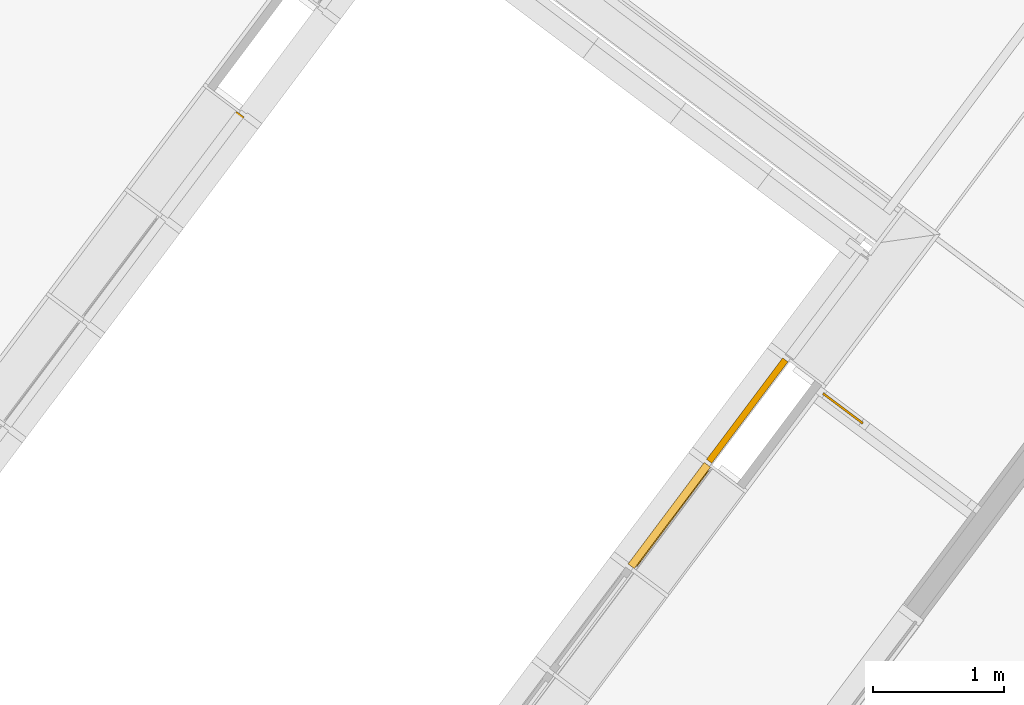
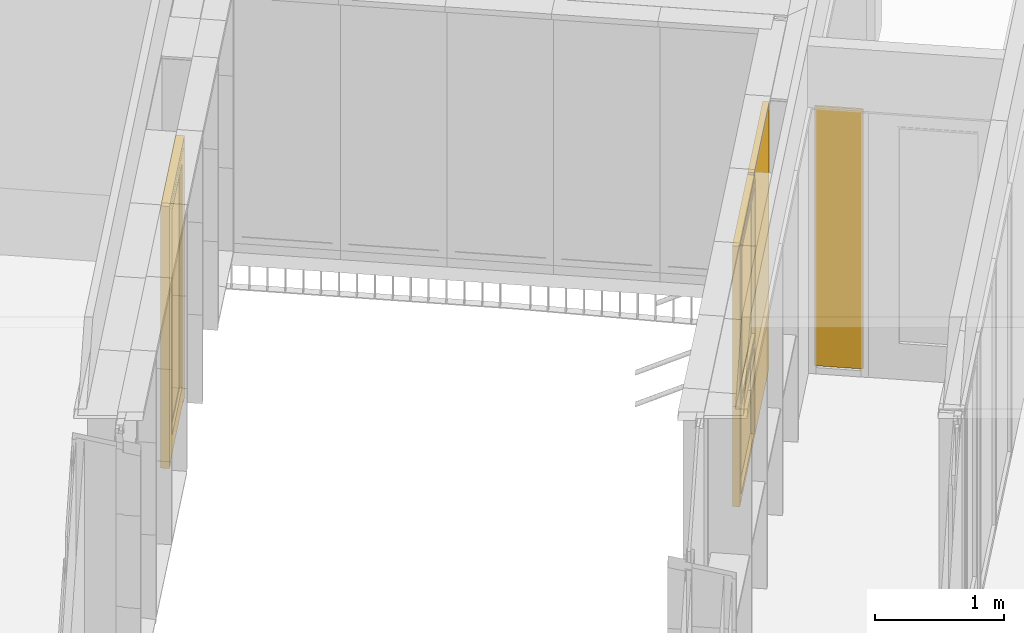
# One storey, part 209 of 243: 4 windows, 1 door, 3 elements without a shape of their own.
"""IFC2X3 building model written with IfcOpenShell, lengths in metres."""

from ifc_helpers import new_model, entity, si_unit, converted_unit, derived_unit, direction, frame, frame_2d, origin, origin_2d_with_axis, place, context, subcontext, project, spatial, polyline, rectangle, outline, extrude, faceted_brep, source, transform, mapped, material, material_list, type_object, type_shapes, element, aggregate, save


model = new_model("IFC2X3")

# Units and contexts
model_context = context("Model", 3, precision=1e-05, world=origin(), true_north=direction((6.123031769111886e-17, 1.0)))
body_context = subcontext(model_context, "Body", "Model", "MODEL_VIEW")
ifc_project = project(units=[si_unit("LENGTHUNIT", "METRE"), si_unit("AREAUNIT", "SQUARE_METRE"), si_unit("VOLUMEUNIT", "CUBIC_METRE"), converted_unit("PLANEANGLEUNIT", "DEGREE", entity("IfcRatioMeasure", 0.017453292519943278), si_unit("PLANEANGLEUNIT", "RADIAN"), dimensions=[0, 0, 0, 0, 0, 0, 0]), si_unit("MASSUNIT", "GRAM", prefix="KILO"), derived_unit("MASSDENSITYUNIT", [(si_unit("MASSUNIT", "GRAM", prefix="KILO"), 1), (si_unit("LENGTHUNIT", "METRE"), -3)]), derived_unit("IONCONCENTRATIONUNIT", [(si_unit("MASSUNIT", "GRAM", prefix="KILO"), 1), (si_unit("LENGTHUNIT", "METRE"), -3)]), derived_unit("MOMENTOFINERTIAUNIT", [(si_unit("LENGTHUNIT", "METRE"), 4)]), si_unit("TIMEUNIT", "SECOND"), si_unit("FREQUENCYUNIT", "HERTZ"), si_unit("THERMODYNAMICTEMPERATUREUNIT", "DEGREE_CELSIUS"), derived_unit("THERMALTRANSMITTANCEUNIT", [(si_unit("MASSUNIT", "GRAM", prefix="KILO"), 1), (si_unit("THERMODYNAMICTEMPERATUREUNIT", "KELVIN"), -1), (si_unit("TIMEUNIT", "SECOND"), -3)]), derived_unit("THERMALCONDUCTANCEUNIT", [(si_unit("MASSUNIT", "GRAM", prefix="KILO"), 1), (si_unit("THERMODYNAMICTEMPERATUREUNIT", "KELVIN"), -1), (si_unit("TIMEUNIT", "SECOND"), -3), (si_unit("LENGTHUNIT", "METRE"), 1)]), derived_unit("VOLUMETRICFLOWRATEUNIT", [(si_unit("LENGTHUNIT", "METRE"), 3), (si_unit("TIMEUNIT", "SECOND"), -1)]), derived_unit("MASSFLOWRATEUNIT", [(si_unit("MASSUNIT", "GRAM", prefix="KILO"), 1), (si_unit("TIMEUNIT", "SECOND"), -1)]), derived_unit("ROTATIONALFREQUENCYUNIT", [(si_unit("TIMEUNIT", "SECOND"), -1)]), si_unit("ELECTRICCURRENTUNIT", "AMPERE"), si_unit("ELECTRICVOLTAGEUNIT", "VOLT"), si_unit("POWERUNIT", "WATT"), si_unit("FORCEUNIT", "NEWTON", prefix="KILO"), si_unit("ILLUMINANCEUNIT", "LUX"), si_unit("LUMINOUSFLUXUNIT", "LUMEN"), si_unit("LUMINOUSINTENSITYUNIT", "CANDELA"), derived_unit("USERDEFINED", [(si_unit("MASSUNIT", "GRAM", prefix="KILO"), -1), (si_unit("LENGTHUNIT", "METRE"), -2), (si_unit("TIMEUNIT", "SECOND"), 3), (si_unit("LUMINOUSFLUXUNIT", "LUMEN"), 1)]), derived_unit("USERDEFINED", [(si_unit("MASSUNIT", "GRAM", prefix="KILO"), 1), (si_unit("TIMEUNIT", "SECOND"), -3), (si_unit("LENGTHUNIT", "METRE"), 3), (si_unit("ELECTRICCURRENTUNIT", "AMPERE"), -2)]), derived_unit("SOUNDPOWERUNIT", [(si_unit("MASSUNIT", "GRAM", prefix="KILO"), 1), (si_unit("TIMEUNIT", "SECOND"), -3), (si_unit("LENGTHUNIT", "METRE"), 2)]), derived_unit("SOUNDPRESSUREUNIT", [(si_unit("MASSUNIT", "GRAM", prefix="KILO"), 1), (si_unit("LENGTHUNIT", "METRE"), -1), (si_unit("TIMEUNIT", "SECOND"), -2)]), derived_unit("LINEARVELOCITYUNIT", [(si_unit("LENGTHUNIT", "METRE"), 1), (si_unit("TIMEUNIT", "SECOND"), -1)]), si_unit("PRESSUREUNIT", "PASCAL"), derived_unit("USERDEFINED", [(si_unit("MASSUNIT", "GRAM", prefix="KILO"), 1), (si_unit("LENGTHUNIT", "METRE"), -2), (si_unit("TIMEUNIT", "SECOND"), -2)]), derived_unit("LINEARFORCEUNIT", [(si_unit("MASSUNIT", "GRAM", prefix="KILO"), 1), (si_unit("TIMEUNIT", "SECOND"), -2)]), derived_unit("PLANARFORCEUNIT", [(si_unit("MASSUNIT", "GRAM", prefix="KILO"), 1), (si_unit("LENGTHUNIT", "METRE"), -1), (si_unit("TIMEUNIT", "SECOND"), -2)]), derived_unit("SPECIFICHEATCAPACITYUNIT", [(si_unit("THERMODYNAMICTEMPERATUREUNIT", "KELVIN"), -1), (si_unit("LENGTHUNIT", "METRE"), 2), (si_unit("TIMEUNIT", "SECOND"), -2)]), derived_unit("HEATINGVALUEUNIT", [(si_unit("LENGTHUNIT", "METRE"), 2), (si_unit("TIMEUNIT", "SECOND"), -2)]), derived_unit("VAPORPERMEABILITYUNIT", [(si_unit("LENGTHUNIT", "METRE"), -1), (si_unit("TIMEUNIT", "SECOND"), 1)]), derived_unit("DYNAMICVISCOSITYUNIT", [(si_unit("MASSUNIT", "GRAM", prefix="KILO"), 1), (si_unit("TIMEUNIT", "SECOND"), -1), (si_unit("LENGTHUNIT", "METRE"), -1)]), derived_unit("THERMALEXPANSIONCOEFFICIENTUNIT", [(si_unit("THERMODYNAMICTEMPERATUREUNIT", "KELVIN"), -1)]), derived_unit("MODULUSOFELASTICITYUNIT", [(si_unit("MASSUNIT", "GRAM", prefix="KILO"), 1), (si_unit("LENGTHUNIT", "METRE"), -1), (si_unit("TIMEUNIT", "SECOND"), -2)]), derived_unit("ISOTHERMALMOISTURECAPACITYUNIT", [(si_unit("LENGTHUNIT", "METRE"), 3), (si_unit("MASSUNIT", "GRAM", prefix="KILO"), -1)]), derived_unit("MOISTUREDIFFUSIVITYUNIT", [(si_unit("TIMEUNIT", "SECOND"), -1), (si_unit("LENGTHUNIT", "METRE"), 2)])], contexts=[model_context])

# Site, building, storey
site_placement = place(None, frame((0.0, 0.0, 235.0), z_axis=(0.0, 0.0, 1.0), x_axis=(-0.7996477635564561, 0.6004693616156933, 0.0)))
site = spatial("IfcSite", under=ifc_project, at=site_placement, Name="Default", CompositionType="ELEMENT")
building_placement = place(site_placement, origin())
building = spatial("IfcBuilding", under=site, at=building_placement, CompositionType="ELEMENT")
storey_placement = place(building_placement, origin())
storey = spatial("IfcBuildingStorey", under=building, at=storey_placement, Name="P0- Escola", CompositionType="ELEMENT", Elevation=0.0)

# Curtain wall, door
curtain_wall_type_1 = type_object("IfcCurtainWallType", Name="Muro cortina:MC- EXT- MC2", PredefinedType="NOTDEFINED")
curtain_wall_1_placement = place(storey_placement, origin())
curtain_wall_1 = element("IfcCurtainWall", 1, at=curtain_wall_1_placement, inside=storey, type_object=curtain_wall_type_1, Name="Muro cortina:MC- EXT- MC2", ObjectType="Muro cortina:MC- EXT- MC2")
ifc_material_1 = material(Name="_Alumini- T1- Perfil")
ifc_material_2 = material(Name="_Vidre")
ifc_material_list_1 = material_list([ifc_material_1, ifc_material_2])
door_style = type_object("IfcDoorStyle", Name="MC- Alu- Conjunt porta- 70x60 cm- +15cm- obertura int:MC- Alu- Conjunt porta- 70x60 cm- +15cm- obertura int", ConstructionType="NOTDEFINED", OperationType="NOTDEFINED", ParameterTakesPrecedence=False, Sizeable=False, material=ifc_material_list_1)
shared_shape_1 = source(origin(), body_context, "Body", "Brep", [
    faceted_brep([(-0.4116999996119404, 0.0, 0.024000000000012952), (0.4116999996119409, 0.0, 0.024000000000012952), (0.4116999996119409, -0.06569970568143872, 0.024000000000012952), (-0.41169999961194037, -0.0656997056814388, 0.024000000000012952), (-0.4116999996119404, -0.0656997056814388, 2.410449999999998), (-0.4116999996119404, 0.0, 2.410449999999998), (0.41169999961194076, -0.06569970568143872, 2.410449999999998), (0.4356999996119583, -0.06569970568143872, 0.0), (-0.43569999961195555, -0.06569970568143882, 0.0), (-0.4356999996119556, -0.06569970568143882, 2.4344500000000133), (0.43569999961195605, -0.06569970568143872, 2.4344500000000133), (0.4116999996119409, 0.0, 2.410449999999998), (-0.3350999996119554, 0.0, 2.333850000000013), (-0.33509999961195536, 0.0, 0.20400000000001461), (0.33509999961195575, 0.0, 0.20400000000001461), (0.33509999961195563, 0.0, 2.333850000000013), (0.43569999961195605, -0.0699997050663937, 2.4344500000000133), (0.43569999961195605, -0.0699997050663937, 0.0), (-0.43569999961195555, -0.06999970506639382, 0.0), (-0.4356999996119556, -0.06999970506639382, 2.4344500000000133), (0.33509999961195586, -0.06999970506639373, 2.3338500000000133), (0.3350999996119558, -0.06999970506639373, 0.20400000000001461), (-0.33509999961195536, -0.06999970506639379, 0.20400000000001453), (-0.3350999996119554, -0.06999970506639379, 2.333850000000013), (0.33509999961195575, -0.06449970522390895, 2.333850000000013), (0.33509999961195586, -0.06449970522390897, 0.20400000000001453), (-0.33509999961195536, -0.06449970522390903, 0.20400000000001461), (-0.3350999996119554, -0.06449970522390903, 2.333850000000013), (0.3601000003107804, -0.06449970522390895, 2.3588500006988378), (0.3601000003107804, -0.06449970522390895, 0.17899999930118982), (-0.36010000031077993, -0.06449970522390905, 0.17899999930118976), (-0.36010000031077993, -0.06449970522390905, 2.3588500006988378), (0.3601000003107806, -0.01899970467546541, 2.3588500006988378), (0.3601000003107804, -0.01899970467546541, 0.17899999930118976), (-0.36010000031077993, -0.018999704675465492, 0.17899999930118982), (-0.36010000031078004, -0.01899970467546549, 2.3588500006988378), (0.33509999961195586, -0.018999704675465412, 2.3338500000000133), (0.33509999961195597, -0.018999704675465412, 0.20400000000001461), (-0.33509999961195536, -0.018999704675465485, 0.20400000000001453), (-0.3350999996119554, -0.018999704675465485, 2.333850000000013)], [[[0, 1, 2, 3]], [[4, 5, 0, 3]], [[2, 6, 4, 3], [7, 8, 9, 10]], [[2, 1, 11, 6]], [[11, 1, 0, 5], [12, 13, 14, 15]], [[16, 17, 7, 10]], [[8, 7, 17, 18]], [[18, 17, 16, 19], [20, 21, 22, 23]], [[24, 25, 21, 20]], [[21, 25, 26, 22]], [[27, 26, 25, 24], [28, 29, 30, 31]], [[32, 33, 29, 28]], [[33, 34, 30, 29]], [[35, 34, 33, 32], [36, 37, 38, 39]], [[15, 14, 37, 36]], [[37, 14, 13, 38]], [[9, 8, 18, 19]], [[23, 22, 26, 27]], [[31, 30, 34, 35]], [[39, 38, 13, 12]], [[19, 16, 10, 9]], [[27, 24, 20, 23]], [[35, 32, 28, 31]], [[12, 15, 36, 39]], [[4, 6, 11, 5]]], outer=[[True], [True], [False, True], [True], [True, False], [True], [True], [True, False], [True], [True], [False, True], [True], [True], [True, False], [True], [True], [True], [True], [True], [True], [True], [True], [True], [True], [True]]),
    faceted_brep([(0.3601000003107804, -0.06089980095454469, 0.17899999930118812), (-0.36010000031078, -0.06089980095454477, 0.17899999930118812), (-0.36010000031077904, -0.028899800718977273, 0.17899999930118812), (0.3601000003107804, -0.02889980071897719, 0.17899999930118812), (0.3601000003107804, -0.060899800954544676, 2.3588500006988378), (0.3601000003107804, -0.02889980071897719, 2.3588500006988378), (-0.36010000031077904, -0.028899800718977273, 2.3588500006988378), (-0.36010000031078, -0.06089980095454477, 2.3588500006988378)], [[[0, 1, 2, 3]], [[4, 0, 3, 5]], [[5, 3, 2, 6]], [[6, 2, 1, 7]], [[7, 1, 0, 4]], [[4, 5, 6, 7]]]),
    faceted_brep([(-0.48499999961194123, -0.06999999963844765, 0.0), (-0.48499999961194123, 0.0, 0.0), (-0.41769999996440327, 0.0, 0.0), (-0.41769999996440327, -0.008800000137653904, 0.0), (-0.43319996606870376, -0.008800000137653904, 0.0), (-0.43319996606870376, -0.059699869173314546, 0.0), (-0.4436999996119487, -0.059699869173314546, 0.0), (-0.4436999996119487, -0.06999999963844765, 0.0), (-0.44369999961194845, -0.06999999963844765, 2.442450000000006), (0.44369999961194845, -0.06999999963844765, 2.442450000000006), (0.44369999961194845, -0.06999999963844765, 0.0), (0.48499999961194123, -0.06999999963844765, 0.0), (0.48499999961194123, -0.06999999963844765, 2.4837499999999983), (-0.4849999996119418, -0.06999999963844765, 2.4837499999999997), (-0.4436999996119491, -0.059699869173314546, 2.442450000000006), (-0.43319996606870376, -0.059699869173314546, 2.4319499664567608), (0.43319996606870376, -0.059699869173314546, 2.4319499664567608), (0.43319996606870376, -0.059699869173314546, 0.0), (0.4436999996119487, -0.059699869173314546, 0.0), (0.44369999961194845, -0.059699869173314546, 2.442450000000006), (-0.433199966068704, -0.008800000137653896, 2.4319499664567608), (-0.41769999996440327, -0.008800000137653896, 2.4164500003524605), (0.41769999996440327, -0.008800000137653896, 2.4164500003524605), (0.41769999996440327, -0.008800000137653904, 0.0), (0.43319996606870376, -0.008800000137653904, 0.0), (0.43319996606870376, -0.008800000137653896, 2.4319499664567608), (-0.4176999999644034, 0.0, 2.4164500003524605), (-0.48499999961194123, 0.0, 2.4837499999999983), (0.48499999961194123, 0.0, 2.4837499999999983), (0.48499999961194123, 0.0, 0.0), (0.41769999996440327, 0.0, 0.0), (0.41769999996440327, 0.0, 2.4164500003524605)], [[[0, 1, 2, 3, 4, 5, 6, 7]], [[7, 8, 9, 10, 11, 12, 13, 0]], [[6, 14, 8, 7]], [[5, 15, 16, 17, 18, 19, 14, 6]], [[4, 20, 15, 5]], [[3, 21, 22, 23, 24, 25, 20, 4]], [[2, 26, 21, 3]], [[1, 27, 28, 29, 30, 31, 26, 2]], [[0, 13, 27, 1]], [[11, 10, 18, 17, 24, 23, 30, 29]], [[12, 11, 29, 28]], [[31, 30, 23, 22]], [[25, 24, 17, 16]], [[19, 18, 10, 9]], [[14, 19, 9, 8]], [[20, 25, 16, 15]], [[26, 31, 22, 21]], [[13, 12, 28, 27]]]),
])
type_shapes(door_style, [shared_shape_1])
door_placement = place(curtain_wall_1_placement, frame((41.04514768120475, -33.91519175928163, 0.020000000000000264), z_axis=(0.0, 0.0, 1.0), x_axis=(0.0, 1.0, 0.0)))
door = element("IfcDoor", 2, at=door_placement, type_object=door_style, material=ifc_material_list_1, Name="MC- Alu- Conjunt porta- 70x60 cm- +15cm- obertura int:MC- Alu- Conjunt porta- 70x60 cm- +15cm- obertura int", ObjectType="MC- Alu- Conjunt porta- 70x60 cm- +15cm- obertura int:MC- Alu- Conjunt porta- 70x60 cm- +15cm- obertura int", OverallHeight=2.483750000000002, OverallWidth=0.9699999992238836, context=body_context, shape_type="MappedRepresentation", body=[
    mapped(shared_shape_1, transform((0.0, 0.0, 0.0), scale=1.0)),
])
aggregate(curtain_wall_1, [door])

# Curtain wall, windows
curtain_wall_type_2 = type_object("IfcCurtainWallType", Name="Muro cortina:MC- EXT- MC5", PredefinedType="NOTDEFINED")
curtain_wall_2_placement = place(storey_placement, origin())
curtain_wall_2 = element("IfcCurtainWall", 3, at=curtain_wall_2_placement, inside=storey, type_object=curtain_wall_type_2, Name="Muro cortina:MC- EXT- MC5", ObjectType="Muro cortina:MC- EXT- MC5")
ifc_material_list_2 = material_list([ifc_material_2, ifc_material_1])
window_style_1 = type_object("IfcWindowStyle", Name="MC- Alu- Conjunt vidre fix- 62x60 cm:MC- Alu- Conjunt vidre fix- 62x60 cm", ConstructionType="NOTDEFINED", OperationType="NOTDEFINED", ParameterTakesPrecedence=False, Sizeable=False, material=ifc_material_list_2)
shared_shape_2 = source(origin(), body_context, "Body", "Brep", [
    faceted_brep([(-0.4361932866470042, -0.007600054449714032, 0.048806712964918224), (0.4361932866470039, -0.007600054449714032, 0.048806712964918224), (0.4361932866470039, -0.03160022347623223, 0.048806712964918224), (-0.4361932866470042, -0.03160022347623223, 0.048806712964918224), (-0.4361932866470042, -0.007600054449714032, 0.8987), (0.4361932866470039, -0.007600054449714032, 0.8987), (0.4361932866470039, -0.03160022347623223, 0.8987), (-0.4361932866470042, -0.03160022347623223, 0.8987)], [[[0, 1, 2, 3]], [[4, 5, 1, 0]], [[5, 6, 2, 1]], [[6, 7, 3, 2]], [[7, 4, 0, 3]], [[4, 7, 6, 5]]]),
    faceted_brep([(-0.4849999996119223, -0.05999999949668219, 0.9477000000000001), (-0.4849999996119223, 0.0, 0.9477000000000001), (-0.4849999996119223, 0.0, 0.0), (-0.4849999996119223, -0.05999999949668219, 0.0), (-0.4221931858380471, 0.0, 0.8848931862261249), (-0.4221931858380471, 0.0, 0.06280681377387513), (0.42219318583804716, 0.0, 0.06280681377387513), (0.42219318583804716, 0.0, 0.8848931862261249), (0.4849999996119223, 0.0, 0.9477000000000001), (0.4849999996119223, 0.0, 0.0), (0.4849999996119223, -0.05999999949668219, 0.0), (0.4849999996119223, -0.05999999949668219, 0.9477000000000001), (0.42219603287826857, -0.05999999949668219, 0.8848960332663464), (0.42219603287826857, -0.05999999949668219, 0.0628039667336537), (-0.42219603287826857, -0.05999999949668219, 0.0628039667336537), (-0.42219603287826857, -0.05999999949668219, 0.8848960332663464), (-0.42219603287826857, -0.03160022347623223, 0.8848960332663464), (-0.4221960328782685, -0.03160022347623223, 0.0628039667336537), (0.4221960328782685, -0.03160022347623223, 0.06280396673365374), (0.42219603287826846, -0.03160022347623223, 0.8848960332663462), (0.43619328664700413, -0.03160022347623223, 0.8988932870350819), (0.43619328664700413, -0.03160022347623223, 0.048806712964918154), (-0.43619328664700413, -0.03160022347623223, 0.04880671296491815), (-0.43619328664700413, -0.03160022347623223, 0.8988932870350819), (-0.43619328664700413, -0.007600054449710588, 0.8988932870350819), (-0.43619328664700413, -0.007600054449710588, 0.04880671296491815), (0.43619328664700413, -0.007600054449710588, 0.048806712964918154), (0.43619328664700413, -0.007600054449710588, 0.8988932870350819), (0.42219318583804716, -0.007600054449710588, 0.8848931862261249), (0.42219318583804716, -0.007600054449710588, 0.0628068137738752), (-0.42219318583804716, -0.007600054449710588, 0.06280681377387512), (-0.42219318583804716, -0.007600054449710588, 0.8848931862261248)], [[[0, 1, 2, 3]], [[4, 5, 6, 7], [8, 9, 2, 1]], [[3, 2, 9, 10]], [[0, 3, 10, 11], [12, 13, 14, 15]], [[16, 15, 14, 17]], [[17, 14, 13, 18]], [[16, 17, 18, 19], [20, 21, 22, 23]], [[24, 23, 22, 25]], [[25, 22, 21, 26]], [[24, 25, 26, 27], [28, 29, 30, 31]], [[4, 31, 30, 5]], [[5, 30, 29, 6]], [[10, 9, 8, 11]], [[18, 13, 12, 19]], [[26, 21, 20, 27]], [[6, 29, 28, 7]], [[11, 8, 1, 0]], [[19, 12, 15, 16]], [[27, 20, 23, 24]], [[7, 28, 31, 4]]], outer=[[True], [False, True], [True], [True, False], [True], [True], [False, True], [True], [True], [True, False], [True], [True], [True], [True], [True], [True], [True], [True], [True], [True]]),
])
type_shapes(window_style_1, [shared_shape_2])
window_1_placement = place(curtain_wall_2_placement, frame((36.64514768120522, -33.91519175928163, 0.03229999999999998), z_axis=(0.0, 0.0, 1.0), x_axis=(0.0, -1.0, 0.0)))
window_1 = element("IfcWindow", 4, at=window_1_placement, type_object=window_style_1, material=ifc_material_list_2, Name="MC- Alu- Conjunt vidre fix- 62x60 cm:MC- Alu- Conjunt vidre fix- 62x60 cm", ObjectType="MC- Alu- Conjunt vidre fix- 62x60 cm:MC- Alu- Conjunt vidre fix- 62x60 cm", OverallHeight=0.9477000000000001, OverallWidth=0.9699999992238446, context=body_context, shape_type="MappedRepresentation", body=[
    mapped(shared_shape_2, transform((0.0, 0.0, 0.0), scale=1.0)),
])
ifc_material_3 = material(Name="<Unnamed>")
ifc_material_list_3 = material_list([ifc_material_3, ifc_material_2, ifc_material_1])
window_style_2 = type_object("IfcWindowStyle", Name="MC- Alu- Conjunt vidre fix revestiment:MC- Alu- Conjunt vidre fix revestiment", ConstructionType="NOTDEFINED", OperationType="NOTDEFINED", ParameterTakesPrecedence=False, Sizeable=False, material=ifc_material_list_3)
shared_shape_3 = source(origin(), body_context, "Body", "SweptSolid", [
    extrude(rectangle(XDim=0.039999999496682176, YDim=0.9599999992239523, at=frame_2d((3.469446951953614e-18, 0.0), x_axis=(1.0, 0.0))), frame((0.0, -0.029999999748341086, 0.0050000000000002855), z_axis=(0.0, 0.0, 1.0), x_axis=(0.0, -1.0, 0.0)), (0.0, 0.0, 1.0), 2.5137499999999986),
    extrude(rectangle(XDim=0.010000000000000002, YDim=0.9699999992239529, at=origin_2d_with_axis()), frame((0.0, -0.005000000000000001, 0.0), z_axis=(0.0, 0.0, 1.0), x_axis=(0.0, -1.0, 0.0)), (0.0, 0.0, 1.0), 2.5237499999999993),
    extrude(outline(polyline([(-0.48499999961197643, -1.2618749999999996), (0.48499999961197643, -1.2618749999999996), (0.4849999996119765, 1.2618749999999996), (-0.4849999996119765, 1.2618749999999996), (-0.48499999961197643, -1.2618749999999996)]), holes=[polyline([(0.4799999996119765, -1.2568749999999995), (-0.4799999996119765, -1.2568749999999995), (-0.4799999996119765, 1.2568749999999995), (0.4799999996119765, 1.2568749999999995), (0.4799999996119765, -1.2568749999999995)])]), frame((0.0, -0.049999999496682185, 1.2618749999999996), z_axis=(0.0, 1.0, 0.0), x_axis=(1.0, 0.0, 0.0)), (0.0, 0.0, 1.0), 0.03999999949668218),
])
type_shapes(window_style_2, [shared_shape_3])
window_2_placement = place(curtain_wall_2_placement, frame((36.64514768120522, -34.915191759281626, -0.02), z_axis=(0.0, 0.0, 1.0), x_axis=(0.0, -1.0, 0.0)))
window_2 = element("IfcWindow", 5, at=window_2_placement, type_object=window_style_2, material=ifc_material_list_3, Name="MC- Alu- Conjunt vidre fix revestiment:MC- Alu- Conjunt vidre fix revestiment", ObjectType="MC- Alu- Conjunt vidre fix revestiment:MC- Alu- Conjunt vidre fix revestiment", OverallHeight=2.5237499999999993, OverallWidth=0.969999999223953, context=body_context, shape_type="MappedRepresentation", body=[
    mapped(shared_shape_3, transform((0.0, 0.0, 0.0), scale=1.0)),
])
window_style_3 = type_object("IfcWindowStyle", Name="MC- Alu- Conjunt finestra basculant- 68x68 cm:MC- Alu- Conjunt finestra basculant- 68x68 cm", ConstructionType="NOTDEFINED", OperationType="NOTDEFINED", ParameterTakesPrecedence=False, Sizeable=False, material=ifc_material_list_2)
shared_shape_4 = source(origin(), body_context, "Body", "Brep", [
    faceted_brep([(-0.4329117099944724, -0.03559830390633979, 0.051999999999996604), (-0.43291170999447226, -0.011598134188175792, 0.051999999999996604), (0.4329117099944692, -0.011598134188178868, 0.051999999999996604), (0.43291170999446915, -0.03559830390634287, 0.051999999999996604), (-0.4329117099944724, -0.03559830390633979, 1.4715527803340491), (-0.4329117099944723, -0.011598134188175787, 1.4715527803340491), (0.4329117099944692, -0.011598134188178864, 1.4715527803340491), (0.43291170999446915, -0.03559830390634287, 1.4715527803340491)], [[[0, 1, 2, 3]], [[4, 5, 1, 0]], [[5, 6, 2, 1]], [[6, 7, 3, 2]], [[7, 4, 0, 3]], [[4, 7, 6, 5]]]),
    faceted_brep([(0.4172108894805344, -0.009998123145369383, 1.4558519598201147), (0.4172108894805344, -0.007998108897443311, 1.4558519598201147), (0.4172108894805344, -0.007998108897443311, 0.06789804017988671), (0.41721088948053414, -0.009998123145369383, 0.06789804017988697), (0.44610892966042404, -0.007998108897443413, 1.4847500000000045), (0.44610892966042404, -0.007998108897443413, 0.03899999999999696), (-0.44610892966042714, -0.007998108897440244, 0.03899999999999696), (-0.44610892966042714, -0.007998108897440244, 1.4847500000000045), (-0.41721088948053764, -0.007998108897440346, 1.4558519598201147), (-0.41721088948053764, -0.007998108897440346, 0.06789804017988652), (-0.41721088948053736, -0.009998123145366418, 0.06789804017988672), (-0.41721088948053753, -0.009998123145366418, 1.4558519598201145), (-0.4329117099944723, -0.00999812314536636, 1.4715527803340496), (-0.4329117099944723, -0.009998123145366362, 0.05219721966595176), (0.4329117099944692, -0.009998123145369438, 0.05219721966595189), (0.4329117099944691, -0.009998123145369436, 1.4715527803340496), (0.4329117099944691, -0.04079986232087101, 1.4715527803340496), (0.4329117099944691, -0.04079986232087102, 0.05219721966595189), (-0.4329117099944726, -0.04079986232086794, 0.05219721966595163), (-0.4329117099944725, -0.04079986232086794, 1.4715527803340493), (-0.4172108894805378, -0.040799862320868, 1.4558519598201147), (-0.4172108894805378, -0.040799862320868, 0.06789804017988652), (0.41721088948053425, -0.04079986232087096, 0.06789804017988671), (0.41721088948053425, -0.04079986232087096, 1.4558519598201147), (0.41721088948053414, -0.06800005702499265, 1.4558519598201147), (0.4172108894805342, -0.06800005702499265, 0.06789804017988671), (-0.41721088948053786, -0.0680000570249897, 0.06789804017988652), (-0.41721088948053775, -0.0680000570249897, 1.4558519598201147), (-0.4636128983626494, -0.06800005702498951, 1.5022539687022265), (-0.4636128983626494, -0.06800005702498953, 0.021496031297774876), (0.4636128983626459, -0.06800005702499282, 0.021496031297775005), (0.4636128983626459, -0.06800005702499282, 1.5022539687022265), (0.4636128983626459, -0.0645000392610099, 1.5022539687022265), (0.4636128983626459, -0.0645000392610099, 0.021496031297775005), (-0.4636128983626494, -0.06450003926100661, 0.021496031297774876), (-0.4636128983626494, -0.06450003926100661, 1.5022539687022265), (-0.44610892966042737, -0.06450003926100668, 1.4847500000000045), (-0.44610892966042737, -0.06450003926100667, 0.03899999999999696), (0.4461089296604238, -0.06450003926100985, 0.03899999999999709), (0.4461089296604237, -0.06450003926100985, 1.4847500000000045)], [[[0, 1, 2, 3]], [[4, 5, 6, 7], [8, 9, 2, 1]], [[3, 2, 9, 10]], [[0, 3, 10, 11], [12, 13, 14, 15]], [[16, 15, 14, 17]], [[17, 14, 13, 18]], [[16, 17, 18, 19], [20, 21, 22, 23]], [[24, 23, 22, 25]], [[25, 22, 21, 26]], [[24, 25, 26, 27], [28, 29, 30, 31]], [[32, 31, 30, 33]], [[33, 30, 29, 34]], [[32, 33, 34, 35], [36, 37, 38, 39]], [[4, 39, 38, 5]], [[5, 38, 37, 6]], [[10, 9, 8, 11]], [[18, 13, 12, 19]], [[26, 21, 20, 27]], [[34, 29, 28, 35]], [[6, 37, 36, 7]], [[11, 8, 1, 0]], [[19, 12, 15, 16]], [[27, 20, 23, 24]], [[35, 28, 31, 32]], [[7, 36, 39, 4]]], outer=[[True], [True, False], [True], [False, True], [True], [True], [True, False], [True], [True], [False, True], [True], [True], [True, False], [True], [True], [True], [True], [True], [True], [True], [True], [True], [True], [True], [True]]),
    faceted_brep([(-0.4221931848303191, 0.0, 1.4609431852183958), (-0.4221931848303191, -0.0040000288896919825, 1.4609431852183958), (-0.4221931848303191, -0.0040000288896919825, 0.06280681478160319), (-0.42219318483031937, 0.0, 0.06280681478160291), (-0.457599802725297, -0.0040000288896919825, 1.4963498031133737), (-0.457599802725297, -0.0040000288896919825, 0.02740019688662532), (0.457599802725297, -0.0040000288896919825, 0.02740019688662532), (0.457599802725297, -0.0040000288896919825, 1.4963498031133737), (0.422193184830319, -0.0040000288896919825, 1.4609431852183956), (0.4221931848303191, -0.0040000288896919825, 0.06280681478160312), (0.42219318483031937, 0.0, 0.06280681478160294), (0.4221931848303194, 0.0, 1.460943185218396), (0.4849999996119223, 0.0, 1.523749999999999), (0.4849999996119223, 0.0, 0.0), (-0.4849999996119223, 0.0, 0.0), (-0.4849999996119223, 0.0, 1.523749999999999), (-0.4849999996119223, -0.05999999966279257, 1.523749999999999), (-0.4849999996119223, -0.05999999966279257, 0.0), (0.4849999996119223, -0.05999999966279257, 0.0), (0.4849999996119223, -0.05999999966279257, 1.523749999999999), (0.4575998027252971, -0.05999999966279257, 1.4963498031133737), (0.4575998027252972, -0.05999999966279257, 0.027400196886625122), (-0.4575998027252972, -0.05999999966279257, 0.027400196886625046), (-0.4575998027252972, -0.05999999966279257, 1.496349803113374)], [[[0, 1, 2, 3]], [[4, 5, 6, 7], [8, 9, 2, 1]], [[3, 2, 9, 10]], [[0, 3, 10, 11], [12, 13, 14, 15]], [[16, 15, 14, 17]], [[17, 14, 13, 18]], [[16, 17, 18, 19], [20, 21, 22, 23]], [[4, 23, 22, 5]], [[5, 22, 21, 6]], [[10, 9, 8, 11]], [[18, 13, 12, 19]], [[6, 21, 20, 7]], [[11, 8, 1, 0]], [[19, 12, 15, 16]], [[7, 20, 23, 4]]], outer=[[True], [True, False], [True], [False, True], [True], [True], [True, False], [True], [True], [True], [True], [True], [True], [True], [True]]),
])
type_shapes(window_style_3, [shared_shape_4])
window_3_placement = place(curtain_wall_2_placement, frame((36.64514768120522, -33.91519175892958, 0.98), z_axis=(0.0, 0.0, 1.0), x_axis=(0.0, -1.0, 0.0)))
window_3 = element("IfcWindow", 6, at=window_3_placement, type_object=window_style_3, material=ifc_material_list_2, Name="MC- Alu- Conjunt finestra basculant- 68x68 cm:MC- Alu- Conjunt finestra basculant- 68x68 cm", ObjectType="MC- Alu- Conjunt finestra basculant- 68x68 cm:MC- Alu- Conjunt finestra basculant- 68x68 cm", OverallHeight=1.523749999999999, OverallWidth=0.9699999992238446, context=body_context, shape_type="MappedRepresentation", body=[
    mapped(shared_shape_4, transform((0.0, 0.0, 0.0), scale=1.0)),
])
aggregate(curtain_wall_2, [window_1, window_2, window_3])

# Curtain wall, window
curtain_wall_type_3 = type_object("IfcCurtainWallType", Name="Muro cortina:MC- INT- C2", PredefinedType="NOTDEFINED")
curtain_wall_3_placement = place(storey_placement, origin())
curtain_wall_3 = element("IfcCurtainWall", 7, at=curtain_wall_3_placement, inside=storey, type_object=curtain_wall_type_3, Name="Muro cortina:MC- INT- C2", ObjectType="Muro cortina:MC- INT- C2")
window_style_4 = type_object("IfcWindowStyle", Name="MC- Fusta- vidre fix:MC- Fusta- vidre fix", ConstructionType="NOTDEFINED", OperationType="NOTDEFINED", ParameterTakesPrecedence=False, Sizeable=False, material=ifc_material_2)
shared_shape_5 = source(origin(), body_context, "Body", "SweptSolid", [
    extrude(rectangle(XDim=0.3800000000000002, YDim=0.015999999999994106, at=origin_2d_with_axis()), frame((0.0, 0.0, 0.0), z_axis=(0.0, 0.0, 1.0), x_axis=(-1.0, 0.0, 0.0)), (0.0, 0.0, 1.0), 2.46),
])
type_shapes(window_style_4, [shared_shape_5])
window_4_placement = place(curtain_wall_3_placement, frame((36.04514768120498, -35.367691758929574, 0.05999999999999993)))
window_4 = element("IfcWindow", 8, at=window_4_placement, type_object=window_style_4, material=ifc_material_2, Name="MC- Fusta- vidre fix:MC- Fusta- vidre fix", ObjectType="MC- Fusta- vidre fix:MC- Fusta- vidre fix", OverallHeight=2.46, OverallWidth=0.3800000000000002, context=body_context, shape_type="MappedRepresentation", body=[
    mapped(shared_shape_5, transform((0.0, 0.0, 0.0), scale=1.0)),
])
aggregate(curtain_wall_3, [window_4])

save(model, "model.ifc")
